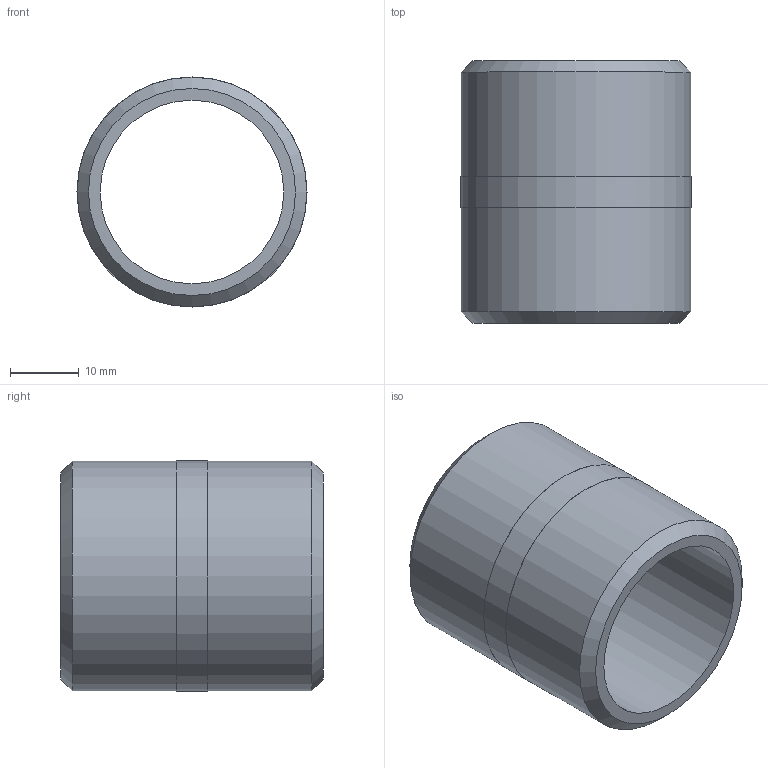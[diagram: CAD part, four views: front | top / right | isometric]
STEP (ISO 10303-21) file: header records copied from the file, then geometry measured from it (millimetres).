
FILE_DESCRIPTION(/* description */ (''),/* implementation_level */ '2;1');
FILE_NAME(/* name */ 'C:/Users/drich/Desktop/BPN1-CLOSE v1.step',/* time_stamp */ '2020-01-03T14:17:28-06:00',/* author */ (''),/* organization */ (''),/* preprocessor_version */ 'ST-DEVELOPER v18',/* originating_system */ 'Autodesk Translation Framework v8.12.0.6',/* authorisation */ '');
FILE_SCHEMA (('AUTOMOTIVE_DESIGN { 1 0 10303 214 3 1 1 }'));
Length unit declared in the file: inch
Products named in the file (1): BPN1-CLOSE
Bounding box: 33.4 x 38.1 x 33.4 mm (x, y, z)
Volume: 11774.2 mm3; surface area: 7609.3 mm2
Topology: 1 solids, 1 shells, 10 faces, 24 edges, 18 vertices
Faces by surface type: cylinder 4, plane 4, cone 2
Full cylindrical faces by diameter (mm): 26.645 x1, 33.35 x2, 33.401 x1
Entity records: 360 total; most frequent: DIRECTION 64, CARTESIAN_POINT 53, ORIENTED_EDGE 48, AXIS2_PLACEMENT_3D 29, EDGE_CURVE 24, CIRCLE 18, VERTEX_POINT 18, EDGE_LOOP 14
